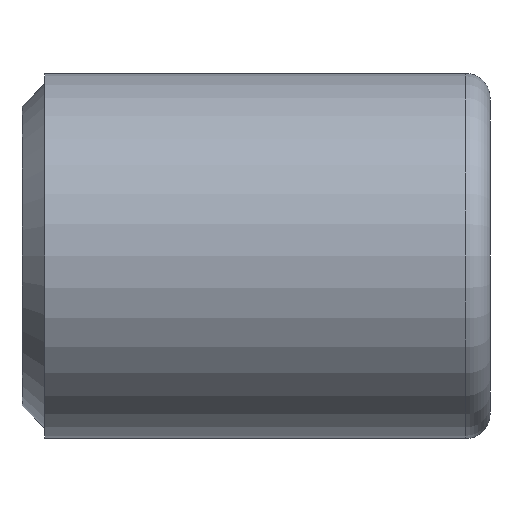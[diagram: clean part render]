
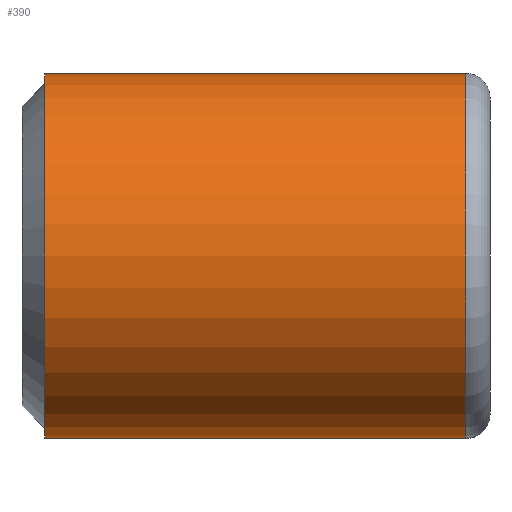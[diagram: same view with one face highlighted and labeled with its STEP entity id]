
A CAD part, front view. The second image highlights one B-rep face of the part: STEP entity #390.
In plain terms, the highlighted cylindrical face has radius 14.376 mm (diameter 28.753 mm), a partial arc.
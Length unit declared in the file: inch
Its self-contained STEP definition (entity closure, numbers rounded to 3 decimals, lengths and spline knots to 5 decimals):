
#84 = CARTESIAN_POINT ( 'NONE',  ( 1.37674, 0., 0.566 ) ) ;
#92 = CIRCLE ( 'NONE', #362, 0.566 ) ;
#118 = ORIENTED_EDGE ( 'NONE', *, *, #654, .T. ) ;
#134 = DIRECTION ( 'NONE',  ( -1., 0., 0. ) ) ;
#149 = CARTESIAN_POINT ( 'NONE',  ( 0., 0., 0. ) ) ;
#156 = EDGE_CURVE ( 'NONE', #772, #667, #223, .T. ) ;
#159 = CARTESIAN_POINT ( 'NONE',  ( 1.37674, 0., 0. ) ) ;
#223 = CIRCLE ( 'NONE', #818, 0.566 ) ;
#249 = ORIENTED_EDGE ( 'NONE', *, *, #646, .F. ) ;
#269 = LINE ( 'NONE', #490, #274 ) ;
#274 = VECTOR ( 'NONE', #134, 39.37008 ) ;
#288 = LINE ( 'NONE', #885, #662 ) ;
#291 = DIRECTION ( 'NONE',  ( 0., 0., 1. ) ) ;
#305 = DIRECTION ( 'NONE',  ( 0., 0., 1. ) ) ;
#326 = CARTESIAN_POINT ( 'NONE',  ( 1.37674, 0., -0.566 ) ) ;
#334 = VERTEX_POINT ( 'NONE', #326 ) ;
#352 = DIRECTION ( 'NONE',  ( -1., 0., 0. ) ) ;
#362 = AXIS2_PLACEMENT_3D ( 'NONE', #159, #558, #291 ) ;
#390 = ADVANCED_FACE ( 'NONE', ( #433 ), #872, .T. ) ;
#433 = FACE_OUTER_BOUND ( 'NONE', #525, .T. ) ;
#435 = CARTESIAN_POINT ( 'NONE',  ( 0.07074, 0., 0.566 ) ) ;
#444 = DIRECTION ( 'NONE',  ( -1., 0., 0. ) ) ;
#473 = CARTESIAN_POINT ( 'NONE',  ( 0.07074, 0., -0.566 ) ) ;
#481 = VERTEX_POINT ( 'NONE', #84 ) ;
#490 = CARTESIAN_POINT ( 'NONE',  ( 0., 0., -0.566 ) ) ;
#525 = EDGE_LOOP ( 'NONE', ( #249, #118, #629, #838 ) ) ;
#558 = DIRECTION ( 'NONE',  ( -1., 0., 0. ) ) ;
#566 = DIRECTION ( 'NONE',  ( 0., 0., 1. ) ) ;
#616 = AXIS2_PLACEMENT_3D ( 'NONE', #149, #636, #566 ) ;
#629 = ORIENTED_EDGE ( 'NONE', *, *, #928, .T. ) ;
#636 = DIRECTION ( 'NONE',  ( -1., 0., 0. ) ) ;
#646 = EDGE_CURVE ( 'NONE', #334, #772, #269, .T. ) ;
#654 = EDGE_CURVE ( 'NONE', #334, #481, #92, .T. ) ;
#662 = VECTOR ( 'NONE', #352, 39.37008 ) ;
#667 = VERTEX_POINT ( 'NONE', #435 ) ;
#772 = VERTEX_POINT ( 'NONE', #473 ) ;
#818 = AXIS2_PLACEMENT_3D ( 'NONE', #833, #444, #305 ) ;
#833 = CARTESIAN_POINT ( 'NONE',  ( 0.07074, 0., 0. ) ) ;
#838 = ORIENTED_EDGE ( 'NONE', *, *, #156, .F. ) ;
#872 = CYLINDRICAL_SURFACE ( 'NONE', #616, 0.566 ) ;
#885 = CARTESIAN_POINT ( 'NONE',  ( 0., 0., 0.566 ) ) ;
#928 = EDGE_CURVE ( 'NONE', #481, #667, #288, .T. ) ;
